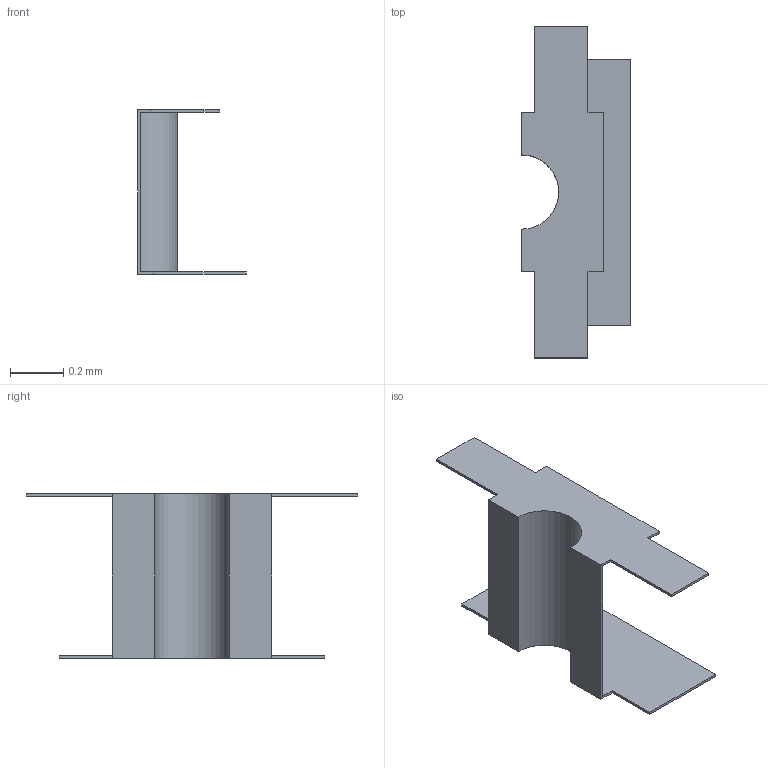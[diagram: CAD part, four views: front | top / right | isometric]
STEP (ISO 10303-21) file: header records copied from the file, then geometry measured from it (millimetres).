
FILE_DESCRIPTION(/* description */ ('STEP AP242 Edition 2','CAx-IF Rec.Pracs.---Representation and Presentation of Product Manufacturing Information (PMI)---4.0---2014-10-13','CAx-IF Rec.Pracs.---3D Tessellated Geometry---0.4---2014-09-14','2;1','CAx-IF Rec.Pracs.---User Defined Attributes---1.5---2016-08-15'),/* implementation_level */ '2;1');
FILE_NAME(/* name */ 'Assembly 1 - LED0805-RD_RED~LED0805-RD_RED~nxQB_1',/* time_stamp */ '2026-04-02T09:55:16Z',/* author */ (''),/* organization */ (''),/* preprocessor_version */ 'ST-DEVELOPER v20',/* originating_system */ 'ONSHAPE BY PTC INC, 1.212',/* authorisation */ ' ');
FILE_SCHEMA (('AP242_MANAGED_MODEL_BASED_3D_ENGINEERING_MIM_LF { 1 0 10303 442 3 1 4 }'));
Length unit declared in the file: metre
Products named in the file (1): LED0805-RD_RED~LED0805-RD_RED~nxQB_1
Bounding box: 0.41 x 1.25 x 0.62 mm (x, y, z)
Volume: 0 mm3; surface area: 2.2 mm2
Topology: 1 solids, 1 shells, 26 faces, 72 edges, 48 vertices
Faces by surface type: plane 24, cylinder 2
Entity records: 1025 total; most frequent: CARTESIAN_POINT 147, ORIENTED_EDGE 144, DIRECTION 130, EDGE_CURVE 72, LINE 68, VECTOR 68, VERTEX_POINT 48, AXIS2_PLACEMENT_3D 31
